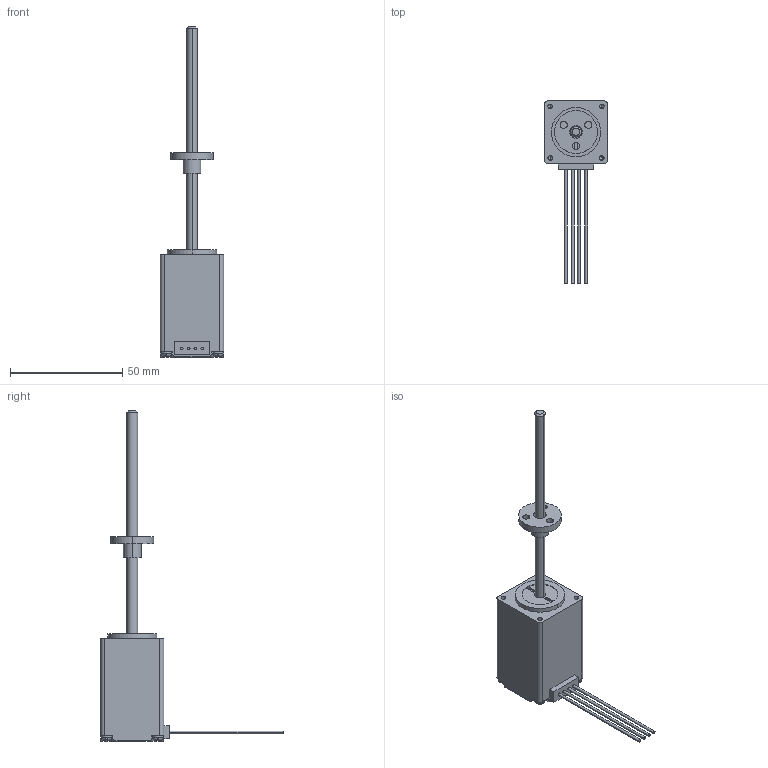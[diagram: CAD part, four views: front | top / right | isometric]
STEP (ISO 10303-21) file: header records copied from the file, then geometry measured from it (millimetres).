
FILE_DESCRIPTION (( 'STEP AP214' ), '1' );
FILE_NAME ('AMETEK-E28M47-2.1-4-12.STEP', '2022-02-28T12:03:23', ( '' ), ( '' ), 'SwSTEP 2.0', 'SolidWorks 2021', '' );
FILE_SCHEMA (( 'AUTOMOTIVE_DESIGN' ));
Length unit declared in the file: inch
Products named in the file (3): AMETEK-E28M47-2.1-4-12; 28000 Double Stack E-Linear; 28000 External Linear Nut_28000 external linear nut
Assembly tree (2 placements, depth 2):
  AMETEK-E28M47-2.1-4-12
    28000 Double Stack E-Linear
    28000 External Linear Nut_28000 external linear nut
Bounding box: 28.19 x 81.53 x 147.6 mm (x, y, z)
Volume: 40162.7 mm3; surface area: 10500.3 mm2
Topology: 2 solids, 2 shells, 199 faces, 512 edges, 331 vertices
Faces by surface type: plane 106, cylinder 66, cone 14, torus 13
Entity records: 7175 total; most frequent: CARTESIAN_POINT 1344, DIRECTION 1038, ORIENTED_EDGE 1008, EDGE_CURVE 504, AXIS2_PLACEMENT_3D 375, VERTEX_POINT 331, LINE 288, VECTOR 288
